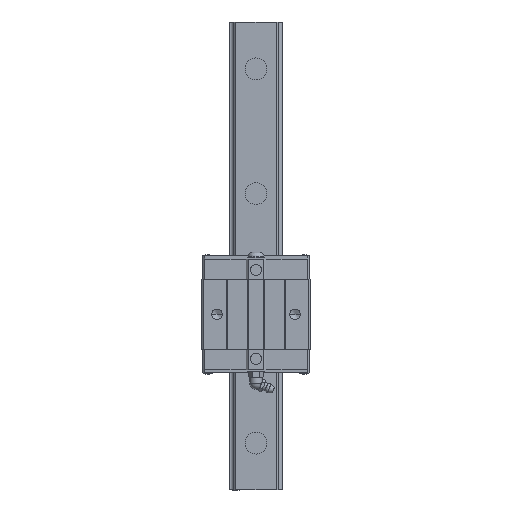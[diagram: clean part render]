
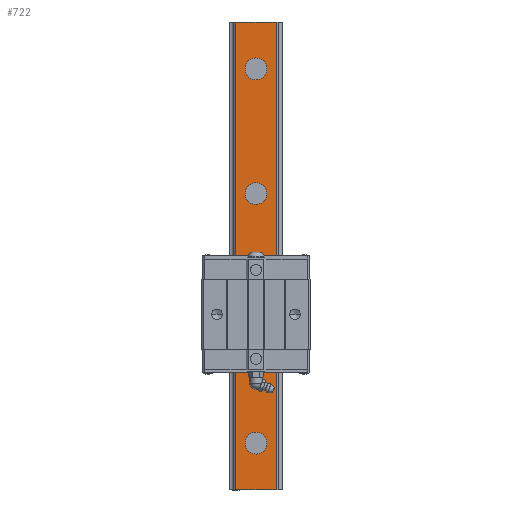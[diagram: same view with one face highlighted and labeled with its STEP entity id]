
A CAD part, top view. The second image highlights one B-rep face of the part: STEP entity #722.
In plain terms, the highlighted planar face has unit normal (0, 0, 1).
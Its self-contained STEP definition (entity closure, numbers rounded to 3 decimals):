
#722=ADVANCED_FACE('',(#1965,#1966,#1967,#1968,#1969),#1970,.T.);
#1965=FACE_BOUND('',#3249,.T.);
#1966=FACE_BOUND('',#3250,.T.);
#1967=FACE_BOUND('',#3251,.T.);
#1968=FACE_BOUND('',#3252,.T.);
#1969=FACE_OUTER_BOUND('',#3253,.T.);
#1970=PLANE('',#3254);
#3249=EDGE_LOOP('',(#8386,#8387));
#3250=EDGE_LOOP('',(#8388,#8389));
#3251=EDGE_LOOP('',(#8390,#8391));
#3252=EDGE_LOOP('',(#8392,#8393));
#3253=EDGE_LOOP('',(#8394,#8395,#8396,#8397));
#3254=AXIS2_PLACEMENT_3D('',#8398,#8399,#8400);
#8386=ORIENTED_EDGE('',*,*,#9967,.T.);
#8387=ORIENTED_EDGE('',*,*,#10259,.T.);
#8388=ORIENTED_EDGE('',*,*,#9959,.T.);
#8389=ORIENTED_EDGE('',*,*,#10262,.T.);
#8390=ORIENTED_EDGE('',*,*,#9951,.T.);
#8391=ORIENTED_EDGE('',*,*,#10265,.T.);
#8392=ORIENTED_EDGE('',*,*,#9943,.T.);
#8393=ORIENTED_EDGE('',*,*,#10268,.T.);
#8394=ORIENTED_EDGE('',*,*,#10239,.T.);
#8395=ORIENTED_EDGE('',*,*,#10292,.F.);
#8396=ORIENTED_EDGE('',*,*,#10133,.T.);
#8397=ORIENTED_EDGE('',*,*,#10291,.T.);
#8398=CARTESIAN_POINT('',(-13.042,300.0,27.5));
#8399=DIRECTION('',(0.0,0.0,1.0));
#8400=DIRECTION('',(-1.0,0.0,0.0));
#9943=EDGE_CURVE('',#12514,#12511,#12515,.T.);
#9951=EDGE_CURVE('',#12530,#12527,#12531,.T.);
#9959=EDGE_CURVE('',#12546,#12543,#12547,.T.);
#9967=EDGE_CURVE('',#12562,#12559,#12563,.T.);
#10133=EDGE_CURVE('',#12844,#12842,#12845,.T.);
#10239=EDGE_CURVE('',#13035,#13033,#13036,.T.);
#10259=EDGE_CURVE('',#12559,#12562,#13074,.T.);
#10262=EDGE_CURVE('',#12543,#12546,#13077,.T.);
#10265=EDGE_CURVE('',#12527,#12530,#13080,.T.);
#10268=EDGE_CURVE('',#12511,#12514,#13083,.T.);
#10291=EDGE_CURVE('',#12842,#13035,#13106,.T.);
#10292=EDGE_CURVE('',#12844,#13033,#13107,.T.);
#12511=VERTEX_POINT('',#18230);
#12514=VERTEX_POINT('',#18234);
#12515=CIRCLE('',#18235,7.0);
#12527=VERTEX_POINT('',#18250);
#12530=VERTEX_POINT('',#18254);
#12531=CIRCLE('',#18255,7.0);
#12543=VERTEX_POINT('',#18270);
#12546=VERTEX_POINT('',#18274);
#12547=CIRCLE('',#18275,7.0);
#12559=VERTEX_POINT('',#18290);
#12562=VERTEX_POINT('',#18294);
#12563=CIRCLE('',#18295,7.0);
#12842=VERTEX_POINT('',#18708);
#12844=VERTEX_POINT('',#18711);
#12845=LINE('',#18712,#18713);
#13033=VERTEX_POINT('',#18987);
#13035=VERTEX_POINT('',#18990);
#13036=LINE('',#18991,#18992);
#13074=CIRCLE('',#19040,7.0);
#13077=CIRCLE('',#19043,7.0);
#13080=CIRCLE('',#19046,7.0);
#13083=CIRCLE('',#19049,7.0);
#13106=LINE('',#19092,#19093);
#13107=LINE('',#19094,#19095);
#18230=CARTESIAN_POINT('',(7.0,30.0,27.5));
#18234=CARTESIAN_POINT('',(-7.0,30.0,27.5));
#18235=AXIS2_PLACEMENT_3D('',#20817,#20818,#20819);
#18250=CARTESIAN_POINT('',(7.0,110.0,27.5));
#18254=CARTESIAN_POINT('',(-7.0,110.0,27.5));
#18255=AXIS2_PLACEMENT_3D('',#20833,#20834,#20835);
#18270=CARTESIAN_POINT('',(7.0,190.0,27.5));
#18274=CARTESIAN_POINT('',(-7.0,190.0,27.5));
#18275=AXIS2_PLACEMENT_3D('',#20849,#20850,#20851);
#18290=CARTESIAN_POINT('',(7.0,270.0,27.5));
#18294=CARTESIAN_POINT('',(-7.0,270.0,27.5));
#18295=AXIS2_PLACEMENT_3D('',#20865,#20866,#20867);
#18708=CARTESIAN_POINT('',(-13.042,300.0,27.5));
#18711=CARTESIAN_POINT('',(13.042,300.0,27.5));
#18712=CARTESIAN_POINT('',(13.042,300.0,27.5));
#18713=VECTOR('',#21093,1.0);
#18987=CARTESIAN_POINT('',(13.042,0.0,27.5));
#18990=CARTESIAN_POINT('',(-13.042,0.0,27.5));
#18991=CARTESIAN_POINT('',(13.042,0.0,27.5));
#18992=VECTOR('',#21235,1.0);
#19040=AXIS2_PLACEMENT_3D('',#21273,#21274,#21275);
#19043=AXIS2_PLACEMENT_3D('',#21282,#21283,#21284);
#19046=AXIS2_PLACEMENT_3D('',#21291,#21292,#21293);
#19049=AXIS2_PLACEMENT_3D('',#21300,#21301,#21302);
#19092=CARTESIAN_POINT('',(-13.042,300.0,27.5));
#19093=VECTOR('',#21329,1.0);
#19094=CARTESIAN_POINT('',(13.042,300.0,27.5));
#19095=VECTOR('',#21330,1.0);
#20817=CARTESIAN_POINT('',(0.0,30.0,27.5));
#20818=DIRECTION('',(0.0,0.0,-1.0));
#20819=DIRECTION('',(1.0,0.0,0.0));
#20833=CARTESIAN_POINT('',(0.0,110.0,27.5));
#20834=DIRECTION('',(0.0,0.0,-1.0));
#20835=DIRECTION('',(1.0,0.0,0.0));
#20849=CARTESIAN_POINT('',(0.0,190.0,27.5));
#20850=DIRECTION('',(0.0,0.0,-1.0));
#20851=DIRECTION('',(1.0,0.0,0.0));
#20865=CARTESIAN_POINT('',(0.0,270.0,27.5));
#20866=DIRECTION('',(0.0,0.0,-1.0));
#20867=DIRECTION('',(1.0,0.0,0.0));
#21093=DIRECTION('',(-1.0,0.0,0.0));
#21235=DIRECTION('',(1.0,0.0,0.0));
#21273=CARTESIAN_POINT('',(0.0,270.0,27.5));
#21274=DIRECTION('',(0.0,0.0,-1.0));
#21275=DIRECTION('',(1.0,0.0,0.0));
#21282=CARTESIAN_POINT('',(0.0,190.0,27.5));
#21283=DIRECTION('',(0.0,0.0,-1.0));
#21284=DIRECTION('',(1.0,0.0,0.0));
#21291=CARTESIAN_POINT('',(0.0,110.0,27.5));
#21292=DIRECTION('',(0.0,0.0,-1.0));
#21293=DIRECTION('',(1.0,0.0,0.0));
#21300=CARTESIAN_POINT('',(0.0,30.0,27.5));
#21301=DIRECTION('',(0.0,0.0,-1.0));
#21302=DIRECTION('',(1.0,0.0,0.0));
#21329=DIRECTION('',(0.0,-1.0,0.0));
#21330=DIRECTION('',(0.0,-1.0,0.0));
